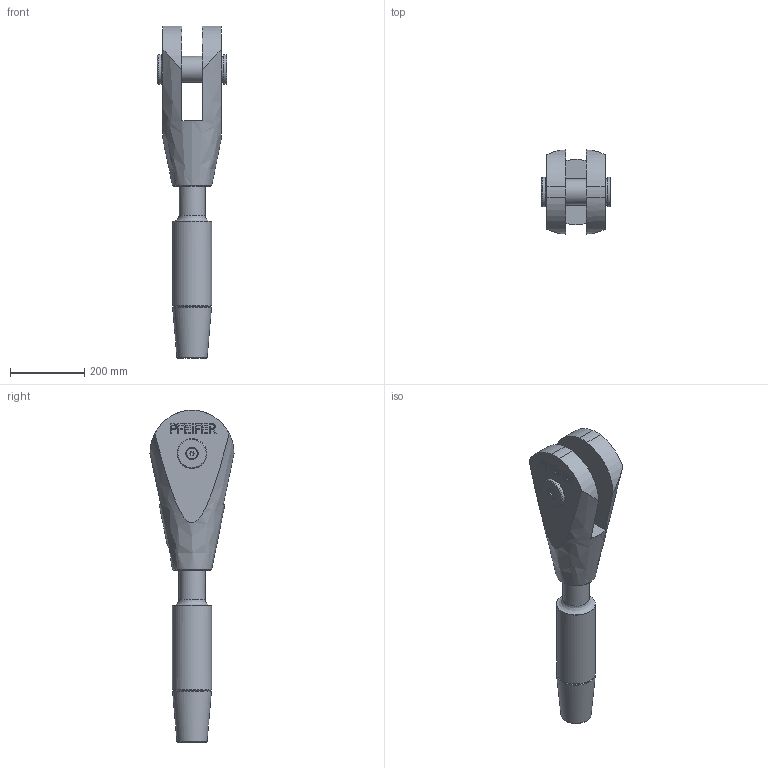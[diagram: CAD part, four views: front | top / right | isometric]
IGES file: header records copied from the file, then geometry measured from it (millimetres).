
Global section: file name: 520-070-GAK-ADA; native system: Autodesk Inventor 2016; preprocessor: unknown; author: Administrator; date: 20200703.131302; units: centimetre
Bounding box: 187.3 x 226.18 x 892.88 mm (x, y, z)
Volume: 10433635.1 mm3; surface area: 567538.1 mm2
Topology: 2 solids, 4 shells, 192 faces, 507 edges, 340 vertices
Faces by surface type: bspline 192
